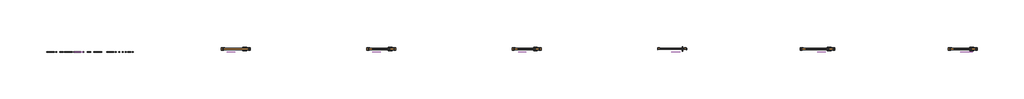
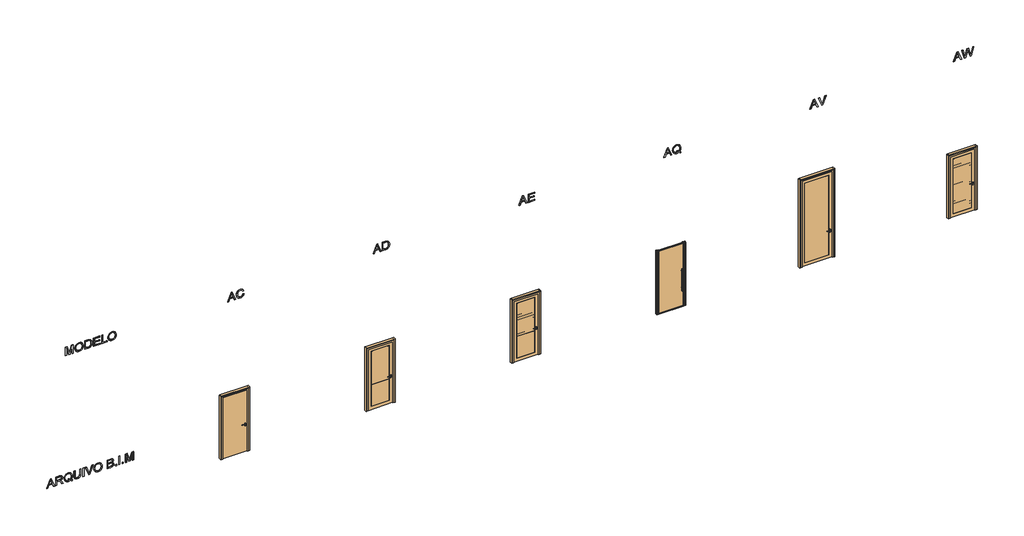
# One storey: 8 proxies, 6 doors.
"""IFC4 building model written with IfcOpenShell, lengths in millimetres."""

from ifc_helpers import new_model, si_unit, frame, origin, place, context, project, spatial, polyline, outline, extrude, transform, mapped, element, save
from components import ac_db78cb7f, ad_85d287fc, ae_54fc4071, aq_f80e5219, av_c553ab14, aw_c943b0d2

model = new_model("IFC4")

# Units and contexts
model_context = context("Model", 3, world=origin())
ifc_project = project(units=[si_unit("LENGTHUNIT", "METRE", prefix="MILLI")], contexts=[model_context])

# Site, building, storey
site = spatial("IfcSite", under=ifc_project)
building = spatial("IfcBuilding", under=site)
storey = spatial("IfcBuildingStorey", under=building, Name="05 - Marelli - Planta Baixa - Porta de Giro (01 Folha)", Elevation=48000.0)

# Proxies
placement = place(None, origin())
element("IfcBuildingElementProxy", 1, Name="300mm Arial", ObjectType="300mm Arial", at=placement, inside=storey, context=model_context, shape_type="SweptSolid", body=[
    extrude(outline(polyline([(49100.0, -7636.3146377), (49100.0, -7596.5098058), (49194.1777908, -7562.076051), (49194.1777908, -7437.9526659), (49100.0, -7403.4453347), (49100.0, -7363.6405028), (49401.3689304, -7483.9379153), (49401.3689304, -7516.0172252), (49100.0, -7636.3146377)]), holes=[polyline([(49231.8489071, -7548.243688), (49312.415064, -7518.739552), (49363.6978141, -7499.9775703), (49305.9403409, -7478.8611437), (49231.8489071, -7451.7114525), (49231.8489071, -7548.243688)])]), frame((0.0, 8778.3159498, 0.0), z_axis=(0.0, 1.0, 0.0), x_axis=(0.0, 0.0, 1.0)), (0.0, 0.0, 1.0), 10.0),
    extrude(outline(polyline([(49100.0, -7323.3942126), (49100.0, -7285.7230963), (49231.8489071, -7285.7230963), (49231.8489071, -7240.2528817), (49230.5245319, -7218.4006911), (49223.350833, -7200.484838), (49203.816299, -7180.582422), (49162.4663628, -7152.2555084), (49100.0, -7113.0392877), (49100.0, -7069.2613303), (49181.6698029, -7119.5140108), (49220.4445652, -7150.0482164), (49236.5577966, -7171.4589486), (49246.5457928, -7134.3488523), (49254.5610217, -7119.9669655), (49264.5904046, -7108.3671864), (49289.2017101, -7093.0540983), (49318.8897871, -7087.9497357), (49342.7561316, -7091.0307474), (49364.4703663, -7100.2737825), (49381.9815493, -7114.6763626), (49393.2387384, -7133.2360093), (49399.3363824, -7158.629064), (49401.3689304, -7193.5318683), (49401.3689304, -7323.3942126), (49100.0, -7323.3942126)]), holes=[polyline([(49269.5200234, -7285.7230963), (49363.6978141, -7285.7230963), (49363.6978141, -7191.9131875), (49360.4420585, -7162.1055488), (49350.6747915, -7141.5501423), (49335.8675412, -7129.6031746), (49317.4918355, -7125.620852), (49304.1837044, -7127.7085823), (49291.9240369, -7133.9717732), (49281.7888879, -7144.254075), (49274.8543123, -7158.3991377), (49270.8535956, -7177.1887106), (49269.5200234, -7201.404543), (49269.5200234, -7285.7230963)])]), frame((0.0, 8778.3159498, 0.0), z_axis=(0.0, 1.0, 0.0), x_axis=(0.0, 0.0, 1.0)), (0.0, 0.0, 1.0), 10.0),
    extrude(outline(polyline([(49136.1260119, -6795.6307023), (49159.6520655, -6777.1814202), (49186.9673037, -6764.0664271), (49218.0349382, -6756.2305406), (49252.8181808, -6753.6185784), (49294.6463636, -6757.9227978), (49331.9863862, -6770.8354558), (49363.1827793, -6791.9610794), (49386.5800742, -6820.9041954), (49401.2033836, -6855.7702114), (49406.07782, -6894.6645354), (49401.3137481, -6933.2553567), (49387.0215326, -6967.9466288), (49363.6150407, -6996.93573), (49331.5081396, -7018.4200386), (49293.055274, -7031.7189727), (49250.6108888, -7036.1519507), (49208.2032918, -7031.7097756), (49170.3022493, -7018.3832504), (49138.6460036, -6996.8161684), (49114.9727972, -6967.6523232), (49100.2115321, -6932.8322924), (49095.2911105, -6894.2966534), (49099.5585416, -6855.9449554), (49112.360835, -6821.0881364), (49091.52032, -6790.1308665), (49077.1177399, -6759.063232), (49104.7088895, -6748.9096889), (49117.5295771, -6771.2953083), (49136.1260119, -6795.6307023)]), holes=[polyline([(49186.2315397, -6883.9223811), (49157.3895912, -6893.6344658), (49150.712533, -6873.2721974), (49140.6877487, -6853.9767867), (49134.8936072, -6873.6032912), (49132.9622268, -6894.5173826), (49134.8637168, -6916.2385151), (49140.568187, -6935.9316982), (49150.0756373, -6953.5969318), (49163.3860678, -6969.2342158), (49180.251158, -6982.0296115), (49200.4225876, -6991.1691798), (49223.9003567, -6996.6529208), (49250.6844652, -6998.4808344), (49278.1859436, -6996.6322274), (49302.0499888, -6991.0864063), (49322.2766007, -6981.8433712), (49338.8657795, -6968.903122), (49351.7899338, -6953.1577726), (49361.0214726, -6935.4994369), (49366.5603959, -6915.9281147), (49368.4067037, -6894.4438062), (49364.7554749, -6865.9605427), (49353.8017885, -6840.4019411), (49336.2354232, -6819.2027411), (49312.7461578, -6803.7976826), (49284.0605592, -6794.4166917), (49250.9051944, -6791.2896947), (49221.7321522, -6793.5015852), (49196.4586591, -6800.1372567), (49175.0847152, -6811.1967092), (49157.6103204, -6826.6799427), (49174.2569807, -6852.2477413), (49186.2315397, -6883.9223811)])]), frame((0.0, 8778.3159498, 0.0), z_axis=(0.0, 1.0, 0.0), x_axis=(0.0, 0.0, 1.0)), (0.0, 0.0, 1.0), 10.0),
    extrude(outline(polyline([(49401.3689304, -6499.3385434), (49228.8322747, -6499.3385434), (49181.6698029, -6504.1026152), (49164.9311721, -6510.057705), (49152.7542781, -6518.3948307), (49144.0952556, -6529.5278596), (49137.9102396, -6543.8706589), (49132.9622268, -6582.1855687), (49135.4638243, -6606.3554158), (49142.968617, -6626.4785609), (49155.0811317, -6641.9112106), (49171.4058953, -6652.0095714), (49194.9779341, -6657.5829836), (49228.8322747, -6659.4407877), (49401.3689304, -6659.4407877), (49401.3689304, -6697.111904), (49227.5078995, -6697.111904), (49184.7324205, -6694.2516215), (49152.0553023, -6685.6707739), (49127.6923172, -6670.4036711), (49109.8592375, -6647.4846228), (49098.9331422, -6616.904432), (49095.2911105, -6578.6539015), (49099.4757682, -6539.5480454), (49112.0297412, -6508.7563224), (49131.2515755, -6486.2235502), (49155.4398167, -6471.8945465), (49186.7925597, -6464.2242069), (49227.5078995, -6461.6674271), (49401.3689304, -6461.6674271), (49401.3689304, -6499.3385434)])), frame((0.0, 8778.3159498, 0.0), z_axis=(0.0, 1.0, 0.0), x_axis=(0.0, 0.0, 1.0)), (0.0, 0.0, 1.0), 10.0),
    extrude(outline(polyline([(-6353.3629677, 8778.3159498), (-6391.034084, 8778.3159498), (-6391.034084, 8788.3159498), (-6353.3629677, 8788.3159498), (-6353.3629677, 8778.3159498)])), frame((0.0, 0.0, 49100.0), z_axis=(0.0, 0.0, 1.0), x_axis=(1.0, 0.0, 0.0)), (0.0, 0.0, 1.0), 301.3689304),
    extrude(outline(polyline([(49100.0, -6188.9932922), (49100.0, -6150.0713771), (49401.3689304, -6035.2186183), (49401.3689304, -6075.5384849), (49184.2449769, -6156.0310655), (49135.3166715, -6172.0707205), (49184.2449769, -6188.3311046), (49401.3689304, -6268.602956), (49401.3689304, -6308.9228227), (49100.0, -6188.9932922)])), frame((0.0, 8778.3159498, 0.0), z_axis=(0.0, 1.0, 0.0), x_axis=(0.0, 0.0, 1.0)), (0.0, 0.0, 1.0), 10.0),
    extrude(outline(polyline([(49246.7113397, -6014.3229209), (49208.1665036, -6010.0187016), (49171.7002009, -5997.1060436), (49140.007167, -5975.8424642), (49115.7821376, -5946.485481), (49100.4138672, -5910.8377157), (49095.2911105, -5870.70179), (49099.9264236, -5832.892718), (49113.832363, -5797.7507904), (49136.7514113, -5767.7868019), (49168.4260511, -5745.5115471), (49206.8881137, -5731.6883811), (49250.1694304, -5727.0806591), (49292.8805301, -5731.4584548), (49330.8091638, -5744.5918421), (49362.4286213, -5766.0761506), (49386.2121922, -5795.5067102), (49401.1114131, -5830.9521404), (49406.07782, -5870.4810608), (49403.4336681, -5900.7715446), (49395.5012126, -5928.1465636), (49382.2804534, -5952.6061177), (49363.7713905, -5974.1502071), (49340.5902263, -5991.7257694), (49313.3531631, -6004.2797425), (49282.0602009, -6011.8121263), (49246.7113397, -6014.3229209)]), holes=[polyline([(49246.3434577, -5976.6518046), (49276.8799625, -5974.6882345), (49302.7121764, -5968.797524), (49323.8400992, -5958.9796733), (49340.263731, -5945.2346822), (49352.5762816, -5928.7673644), (49361.3709605, -5910.7825334), (49366.6477679, -5891.2801891), (49368.4067037, -5870.2603316), (49364.7554749, -5841.0964864), (49353.8017885, -5814.9676677), (49336.2078321, -5793.3086153), (49312.6357932, -5777.5540688), (49283.8122389, -5767.9523488), (49250.463736, -5764.7517754), (49223.9256486, -5766.6210758), (49200.5973316, -5772.228977), (49180.478785, -5781.5754789), (49163.5700088, -5794.6605816), (49150.1791041, -5810.642755), (49140.6141723, -5828.6804691), (49134.8752131, -5848.7737238), (49132.9622268, -5870.9225192), (49134.856819, -5892.6988341), (49140.5405959, -5912.557564), (49150.0135572, -5930.4987091), (49163.2757032, -5946.5222692), (49179.8349915, -5959.703941), (49199.19938, -5969.1194208), (49221.3688687, -5974.7687087), (49246.3434577, -5976.6518046)])]), frame((0.0, 8778.3159498, 0.0), z_axis=(0.0, 1.0, 0.0), x_axis=(0.0, 0.0, 1.0)), (0.0, 0.0, 1.0), 10.0),
    extrude(outline(polyline([(49100.0, -5557.5606357), (49100.0, -5443.4436408), (49105.1871361, -5395.1407348), (49111.6066769, -5377.10532), (49120.4910271, -5362.3624491), (49132.7598917, -5350.3235108), (49149.3329756, -5340.399894), (49168.8215242, -5333.7504269), (49189.8367832, -5331.5339379), (49215.055094, -5334.7804965), (49236.7049494, -5344.5201723), (49253.6643094, -5360.2931129), (49264.8111338, -5381.6394656), (49276.5557665, -5363.7695977), (49291.4825785, -5351.0684718), (49308.543106, -5343.4809057), (49326.6888854, -5340.951717), (49346.4073604, -5343.9591523), (49365.2429185, -5352.9814582), (49381.2549824, -5367.3104619), (49392.5029744, -5386.2379906), (49399.1524414, -5410.9320695), (49401.3689304, -5442.560724), (49401.3689304, -5557.5606357), (49100.0, -5557.5606357)]), holes=[polyline([(49278.9378025, -5519.8895194), (49363.6978141, -5519.8895194), (49363.6978141, -5456.3195106), (49359.7614768, -5407.9062401), (49354.1604734, -5395.4166463), (49345.230138, -5386.2012024), (49333.7890079, -5380.5174255), (49320.6556207, -5378.6228333), (49307.1267603, -5380.6553813), (49296.1178916, -5386.7530254), (49287.7577733, -5396.8605832), (49282.175164, -5410.9228724), (49278.9378025, -5451.0955863), (49278.9378025, -5519.8895194)]), polyline([(49137.6711163, -5519.8895194), (49241.2666861, -5519.8895194), (49241.2666861, -5446.3131204), (49240.0066903, -5419.4853259), (49236.2267028, -5399.776048), (49229.3381125, -5385.8609115), (49218.752308, -5376.4155413), (49205.2142506, -5371.007676), (49189.4689012, -5369.2050542), (49175.9124497, -5370.7409615), (49164.0850436, -5375.3486835), (49147.3464128, -5391.0204565), (49139.1426443, -5414.6752688), (49137.6711163, -5442.6343004), (49137.6711163, -5519.8895194)])]), frame((0.0, 8778.3159498, 0.0), z_axis=(0.0, 1.0, 0.0), x_axis=(0.0, 0.0, 1.0)), (0.0, 0.0, 1.0), 10.0),
    extrude(outline(polyline([(-5237.3561471, 8778.3159498), (-5275.0272634, 8778.3159498), (-5275.0272634, 8788.3159498), (-5237.3561471, 8788.3159498), (-5237.3561471, 8778.3159498)])), frame((0.0, 0.0, 49100.0), z_axis=(0.0, 0.0, 1.0), x_axis=(1.0, 0.0, 0.0)), (0.0, 0.0, 1.0), 37.6711163),
    extrude(outline(polyline([(-5119.6339087, 8778.3159498), (-5157.305025, 8778.3159498), (-5157.305025, 8788.3159498), (-5119.6339087, 8788.3159498), (-5119.6339087, 8778.3159498)])), frame((0.0, 0.0, 49100.0), z_axis=(0.0, 0.0, 1.0), x_axis=(1.0, 0.0, 0.0)), (0.0, 0.0, 1.0), 301.3689304),
    extrude(outline(polyline([(-5001.9116702, 8778.3159498), (-5039.5827865, 8778.3159498), (-5039.5827865, 8788.3159498), (-5001.9116702, 8788.3159498), (-5001.9116702, 8778.3159498)])), frame((0.0, 0.0, 49100.0), z_axis=(0.0, 0.0, 1.0), x_axis=(1.0, 0.0, 0.0)), (0.0, 0.0, 1.0), 37.6711163),
    extrude(outline(polyline([(49100.0, -4926.5694376), (49100.0, -4888.8983213), (49363.6978141, -4888.8983213), (49100.0, -4813.1882067), (49100.0, -4762.1261857), (49363.6978141, -4686.4160711), (49100.0, -4686.4160711), (49100.0, -4648.7449548), (49401.3689304, -4648.7449548), (49401.3689304, -4713.5657624), (49192.6326864, -4774.1927152), (49144.5872978, -4787.6571962), (49188.9538664, -4800.0916076), (49401.3689304, -4861.74863), (49401.3689304, -4926.5694376), (49100.0, -4926.5694376)])), frame((0.0, 8778.3159498, 0.0), z_axis=(0.0, 1.0, 0.0), x_axis=(0.0, 0.0, 1.0)), (0.0, 0.0, 1.0), 10.0),
])
element("IfcBuildingElementProxy", 2, Name="300mm Arial", ObjectType="300mm Arial", at=placement, inside=storey, context=model_context, shape_type="SweptSolid", body=[
    extrude(outline(polyline([(53700.0, -6993.7719449), (53700.0, -6956.1008286), (53963.6978141, -6956.1008286), (53700.0, -6880.390714), (53700.0, -6829.328693), (53963.6978141, -6753.6185784), (53700.0, -6753.6185784), (53700.0, -6715.9474621), (54001.3689304, -6715.9474621), (54001.3689304, -6780.7682697), (53792.6326864, -6841.3952225), (53744.5872978, -6854.8597035), (53788.9538664, -6867.2941149), (54001.3689304, -6928.9511373), (54001.3689304, -6993.7719449), (53700.0, -6993.7719449)])), frame((0.0, 8778.3159498, 0.0), z_axis=(0.0, 1.0, 0.0), x_axis=(0.0, 0.0, 1.0)), (0.0, 0.0, 1.0), 10.0),
    extrude(outline(polyline([(53846.7113397, -6664.1496772), (53808.1665036, -6659.8454579), (53771.7002009, -6646.9327998), (53740.007167, -6625.6692205), (53715.7821376, -6596.3122373), (53700.4138672, -6560.664472), (53695.2911105, -6520.5285463), (53699.9264236, -6482.7194742), (53713.832363, -6447.5775466), (53736.7514113, -6417.6135581), (53768.4260511, -6395.3383033), (53806.8881137, -6381.5151374), (53850.1694304, -6376.9074154), (53892.8805301, -6381.2852111), (53930.8091638, -6394.4185983), (53962.4286213, -6415.9029069), (53986.2121922, -6445.3334665), (54001.1114131, -6480.7788967), (54006.07782, -6520.3078171), (54003.4336681, -6550.5983009), (53995.5012126, -6577.9733198), (53982.2804534, -6602.432874), (53963.7713905, -6623.9769633), (53940.5902263, -6641.5525257), (53913.3531631, -6654.1064987), (53882.0602009, -6661.6388826), (53846.7113397, -6664.1496772)]), holes=[polyline([(53846.3434577, -6626.4785609), (53876.8799625, -6624.5149908), (53902.7121764, -6618.6242803), (53923.8400992, -6608.8064296), (53940.263731, -6595.0614385), (53952.5762816, -6578.5941207), (53961.3709605, -6560.6092897), (53966.6477679, -6541.1069454), (53968.4067037, -6520.0870879), (53964.7554749, -6490.9232427), (53953.8017885, -6464.794424), (53936.2078321, -6443.1353716), (53912.6357932, -6427.3808251), (53883.8122389, -6417.779105), (53850.463736, -6414.5785317), (53823.9256486, -6416.4478321), (53800.5973316, -6422.0557332), (53780.478785, -6431.4022352), (53763.5700088, -6444.4873379), (53750.1791041, -6460.4695113), (53740.6141723, -6478.5072254), (53734.8752131, -6498.6004801), (53732.9622268, -6520.7492755), (53734.856819, -6542.5255903), (53740.5405959, -6562.3843203), (53750.0135572, -6580.3254653), (53763.2757032, -6596.3490255), (53779.8349915, -6609.5306972), (53799.19938, -6618.9461771), (53821.3688687, -6624.5954649), (53846.3434577, -6626.4785609)])]), frame((0.0, 8778.3159498, 0.0), z_axis=(0.0, 1.0, 0.0), x_axis=(0.0, 0.0, 1.0)), (0.0, 0.0, 1.0), 10.0),
    extrude(outline(polyline([(53700.0, -6325.1096305), (53700.0, -6216.1429835), (53705.1503479, -6167.6929247), (53711.5055094, -6148.1491937), (53720.2702979, -6131.6772774), (53732.088507, -6117.3298796), (53747.6039302, -6104.1597042), (53767.2580258, -6092.7185741), (53791.4922522, -6083.5583124), (53819.9571216, -6077.5434418), (53852.303146, -6075.5384849), (53890.3789325, -6078.499935), (53923.9665587, -6087.3842852), (53952.5142015, -6102.2283237), (53975.470038, -6123.0688387), (53988.6586075, -6143.3391366), (53997.0279229, -6167.3618309), (54001.3689304, -6221.1461786), (54001.3689304, -6325.1096305), (53700.0, -6325.1096305)]), holes=[polyline([(53737.6711163, -6287.4385141), (53963.6978141, -6287.4385141), (53963.6978141, -6221.8083662), (53962.189498, -6190.06015), (53957.6645494, -6168.3919005), (53945.0829852, -6147.10073), (53924.2608643, -6129.2860444), (53893.9473879, -6117.228712), (53852.8917572, -6113.2096012), (53821.9068962, -6115.2605434), (53795.9068361, -6121.4133697), (53774.7996067, -6131.245016), (53758.4932372, -6144.332418), (53749.6824634, -6156.5093121), (53743.1157698, -6172.2914497), (53739.0322797, -6193.2055411), (53737.6711163, -6220.7782966), (53737.6711163, -6287.4385141)])]), frame((0.0, 8778.3159498, 0.0), z_axis=(0.0, 1.0, 0.0), x_axis=(0.0, 0.0, 1.0)), (0.0, 0.0, 1.0), 10.0),
    extrude(outline(polyline([(53700.0, -6023.7407), (53700.0, -5802.4228917), (53737.6711163, -5802.4228917), (53737.6711163, -5986.0695837), (53836.5577966, -5986.0695837), (53836.5577966, -5816.5495603), (53874.2289129, -5816.5495603), (53874.2289129, -5986.0695837), (53963.6978141, -5986.0695837), (53963.6978141, -5807.1317812), (54001.3689304, -5807.1317812), (54001.3689304, -6023.7407), (53700.0, -6023.7407)])), frame((0.0, 8778.3159498, 0.0), z_axis=(0.0, 1.0, 0.0), x_axis=(0.0, 0.0, 1.0)), (0.0, 0.0, 1.0), 10.0),
    extrude(outline(polyline([(53700.0, -5745.9162172), (53700.0, -5557.5606357), (53737.6711163, -5557.5606357), (53737.6711163, -5708.2451009), (54001.3689304, -5708.2451009), (54001.3689304, -5745.9162172), (53700.0, -5745.9162172)])), frame((0.0, 8778.3159498, 0.0), z_axis=(0.0, 1.0, 0.0), x_axis=(0.0, 0.0, 1.0)), (0.0, 0.0, 1.0), 10.0),
    extrude(outline(polyline([(53846.7113397, -5529.3072985), (53808.1665036, -5525.0030791), (53771.7002009, -5512.0904211), (53740.007167, -5490.8268418), (53715.7821376, -5461.4698586), (53700.4138672, -5425.8220932), (53695.2911105, -5385.6861676), (53699.9264236, -5347.8770955), (53713.832363, -5312.7351679), (53736.7514113, -5282.7711794), (53768.4260511, -5260.4959246), (53806.8881137, -5246.6727586), (53850.1694304, -5242.0650367), (53892.8805301, -5246.4428324), (53930.8091638, -5259.5762196), (53962.4286213, -5281.0605281), (53986.2121922, -5310.4910878), (54001.1114131, -5345.936518), (54006.07782, -5385.4654384), (54003.4336681, -5415.7559222), (53995.5012126, -5443.1309411), (53982.2804534, -5467.5904953), (53963.7713905, -5489.1345846), (53940.5902263, -5506.7101469), (53913.3531631, -5519.26412), (53882.0602009, -5526.7965039), (53846.7113397, -5529.3072985)]), holes=[polyline([(53846.3434577, -5491.6361822), (53876.8799625, -5489.672612), (53902.7121764, -5483.7819016), (53923.8400992, -5473.9640508), (53940.263731, -5460.2190598), (53952.5762816, -5443.751742), (53961.3709605, -5425.7669109), (53966.6477679, -5406.2645667), (53968.4067037, -5385.2447092), (53964.7554749, -5356.080864), (53953.8017885, -5329.9520453), (53936.2078321, -5308.2929928), (53912.6357932, -5292.5384464), (53883.8122389, -5282.9367263), (53850.463736, -5279.736153), (53823.9256486, -5281.6054533), (53800.5973316, -5287.2133545), (53780.478785, -5296.5598565), (53763.5700088, -5309.6449592), (53750.1791041, -5325.6271326), (53740.6141723, -5343.6648467), (53734.8752131, -5363.7581014), (53732.9622268, -5385.9068968), (53734.856819, -5407.6832116), (53740.5405959, -5427.5419416), (53750.0135572, -5445.4830866), (53763.2757032, -5461.5066468), (53779.8349915, -5474.6883185), (53799.19938, -5484.1037983), (53821.3688687, -5489.7530862), (53846.3434577, -5491.6361822)])]), frame((0.0, 8778.3159498, 0.0), z_axis=(0.0, 1.0, 0.0), x_axis=(0.0, 0.0, 1.0)), (0.0, 0.0, 1.0), 10.0),
])
element("IfcBuildingElementProxy", 3, Name="300mm Arial", ObjectType="300mm Arial", at=placement, inside=storey, context=model_context, shape_type="SweptSolid", body=[
    extrude(outline(polyline([(53700.0, -1416.7122473), (53700.0, -1376.9074154), (53794.1777908, -1342.4736606), (53794.1777908, -1218.3502755), (53700.0, -1183.8429443), (53700.0, -1144.0381124), (54001.3689304, -1264.3355249), (54001.3689304, -1296.4148348), (53700.0, -1416.7122473)]), holes=[polyline([(53831.8489071, -1328.6412976), (53912.415064, -1299.1371616), (53963.6978141, -1280.3751798), (53905.9403409, -1259.2587533), (53831.8489071, -1232.1090621), (53831.8489071, -1328.6412976)])]), frame((0.0, 8778.3159498, 0.0), z_axis=(0.0, 1.0, 0.0), x_axis=(0.0, 0.0, 1.0)), (0.0, 0.0, 1.0), 10.0),
    extrude(outline(polyline([(53807.127237, -891.8917929), (53774.863986, -904.077884), (53751.6506321, -923.8607383), (53737.6343281, -950.0631334), (53732.9622268, -981.507847), (53736.3927264, -1008.4827943), (53746.6842252, -1033.4895729), (53763.9102996, -1054.348482), (53788.144526, -1068.8798208), (53818.2372732, -1077.4054861), (53853.03891, -1080.2473745), (53881.4577941, -1077.8469444), (53909.0305497, -1070.6456544), (53933.4211259, -1057.5214642), (53952.2934723, -1037.3523338), (53964.3783958, -1010.7728597), (53968.4067037, -978.4176382), (53964.773869, -950.348242), (53953.8753649, -927.5027701), (53935.0306097, -909.6604933), (53907.5590217, -896.6006825), (53916.5353424, -858.9295662), (53954.3536115, -875.5670294), (53969.6758966, -887.3691437), (53982.6069487, -901.493513), (53992.8754549, -917.673423), (54000.2101022, -935.6421592), (54006.07782, -976.9461102), (54001.5436744, -1014.8011675), (53987.9412376, -1049.3452869), (53965.6016035, -1078.4723438), (53934.8558657, -1100.076214), (53896.9088379, -1113.4579216), (53852.9653336, -1117.9184908), (53811.3026976, -1113.9729564), (53772.3991767, -1102.1363532), (53739.3081912, -1082.748972), (53715.0831618, -1056.1511038), (53700.2391233, -1021.4506346), (53695.2911105, -977.7554506), (53696.9258861, -955.333043), (53701.8302129, -934.7132572), (53710.004091, -915.8960931), (53721.4475203, -898.8815508), (53736.004151, -884.0053227), (53753.5176332, -871.6031009), (53773.987967, -861.6748856), (53797.4151523, -854.2206766), (53807.127237, -891.8917929)])), frame((0.0, 8778.3159498, 0.0), z_axis=(0.0, 1.0, 0.0), x_axis=(0.0, 0.0, 1.0)), (0.0, 0.0, 1.0), 10.0),
])
element("IfcBuildingElementProxy", 4, Name="300mm Arial", ObjectType="300mm Arial", at=placement, inside=storey, context=model_context, shape_type="SweptSolid", body=[
    extrude(outline(polyline([(53700.0, 3583.2877527), (53700.0, 3623.0925846), (53794.1777908, 3657.5263394), (53794.1777908, 3781.6497245), (53700.0, 3816.1570557), (53700.0, 3855.9618876), (54001.3689304, 3735.6644751), (54001.3689304, 3703.5851652), (53700.0, 3583.2877527)]), holes=[polyline([(53831.8489071, 3671.3587024), (53912.415064, 3700.8628384), (53963.6978141, 3719.6248202), (53905.9403409, 3740.7412467), (53831.8489071, 3767.8909379), (53831.8489071, 3671.3587024)])]), frame((0.0, 8778.3159498, 0.0), z_axis=(0.0, 1.0, 0.0), x_axis=(0.0, 0.0, 1.0)), (0.0, 0.0, 1.0), 10.0),
    extrude(outline(polyline([(53700.0, 3896.2081778), (53700.0, 4005.1748248), (53705.1503479, 4053.6248836), (53711.5055094, 4073.1686146), (53720.2702979, 4089.6405309), (53732.088507, 4103.9879287), (53747.6039302, 4117.1581041), (53767.2580258, 4128.5992342), (53791.4922522, 4137.7594959), (53819.9571216, 4143.7743665), (53852.303146, 4145.7793234), (53890.3789325, 4142.8178733), (53923.9665587, 4133.9335231), (53952.5142015, 4119.0894846), (53975.470038, 4098.2489696), (53988.6586075, 4077.9786717), (53997.0279229, 4053.9559774), (54001.3689304, 4000.1716297), (54001.3689304, 3896.2081778), (53700.0, 3896.2081778)]), holes=[polyline([(53737.6711163, 3933.8792942), (53963.6978141, 3933.8792942), (53963.6978141, 3999.5094421), (53962.189498, 4031.2576583), (53957.6645494, 4052.9259078), (53945.0829852, 4074.2170783), (53924.2608643, 4092.0317639), (53893.9473879, 4104.0890963), (53852.8917572, 4108.1082071), (53821.9068962, 4106.0572649), (53795.9068361, 4099.9044386), (53774.7996067, 4090.0727923), (53758.4932372, 4076.9853903), (53749.6824634, 4064.8084962), (53743.1157698, 4049.0263586), (53739.0322797, 4028.1122672), (53737.6711163, 4000.5395117), (53737.6711163, 3933.8792942)])]), frame((0.0, 8778.3159498, 0.0), z_axis=(0.0, 1.0, 0.0), x_axis=(0.0, 0.0, 1.0)), (0.0, 0.0, 1.0), 10.0),
])
element("IfcBuildingElementProxy", 5, Name="300mm Arial", ObjectType="300mm Arial", at=placement, inside=storey, context=model_context, shape_type="SweptSolid", body=[
    extrude(outline(polyline([(53700.0, 8595.0599766), (53700.0, 8634.8648085), (53794.1777908, 8669.2985632), (53794.1777908, 8793.4219484), (53700.0, 8827.9292795), (53700.0, 8867.7341114), (54001.3689304, 8747.436699), (54001.3689304, 8715.357389), (53700.0, 8595.0599766)]), holes=[polyline([(53831.8489071, 8683.1309262), (53912.415064, 8712.6350623), (53963.6978141, 8731.397044), (53905.9403409, 8752.5134705), (53831.8489071, 8779.6631618), (53831.8489071, 8683.1309262)])]), frame((0.0, 8778.3159498, 0.0), z_axis=(0.0, 1.0, 0.0), x_axis=(0.0, 0.0, 1.0)), (0.0, 0.0, 1.0), 10.0),
    extrude(outline(polyline([(53700.0, 8907.9804017), (53700.0, 9129.29821), (53737.6711163, 9129.29821), (53737.6711163, 8945.651518), (53836.5577966, 8945.651518), (53836.5577966, 9115.1715414), (53874.2289129, 9115.1715414), (53874.2289129, 8945.651518), (53963.6978141, 8945.651518), (53963.6978141, 9124.5893205), (54001.3689304, 9124.5893205), (54001.3689304, 8907.9804017), (53700.0, 8907.9804017)])), frame((0.0, 8778.3159498, 0.0), z_axis=(0.0, 1.0, 0.0), x_axis=(0.0, 0.0, 1.0)), (0.0, 0.0, 1.0), 10.0),
])
element("IfcBuildingElementProxy", 6, Name="300mm Arial", ObjectType="300mm Arial", at=placement, inside=storey, context=model_context, shape_type="SweptSolid", body=[
    extrude(outline(polyline([(53700.0, 13571.5155289), (53700.0, 13611.3203608), (53794.1777908, 13645.7541155), (53794.1777908, 13769.8775007), (53700.0, 13804.3848318), (53700.0, 13844.1896637), (54001.3689304, 13723.8922513), (54001.3689304, 13691.8129413), (53700.0, 13571.5155289)]), holes=[polyline([(53831.8489071, 13659.5864785), (53912.415064, 13689.0906146), (53963.6978141, 13707.8525963), (53905.9403409, 13728.9690228), (53831.8489071, 13756.1187141), (53831.8489071, 13659.5864785)])]), frame((0.0, 8778.3159498, 0.0), z_axis=(0.0, 1.0, 0.0), x_axis=(0.0, 0.0, 1.0)), (0.0, 0.0, 1.0), 10.0),
    extrude(outline(polyline([(53736.1260119, 14110.8305338), (53759.6520655, 14129.2798159), (53786.9673037, 14142.394809), (53818.0349382, 14150.2306955), (53852.8181808, 14152.8426577), (53894.6463636, 14148.5384383), (53931.9863862, 14135.6257803), (53963.1827793, 14114.5001567), (53986.5800742, 14085.5570408), (54001.2033836, 14050.6910247), (54006.07782, 14011.7967007), (54001.3137481, 13973.2058794), (53987.0215326, 13938.5146073), (53963.6150407, 13909.5255061), (53931.5081396, 13888.0411976), (53893.055274, 13874.7422634), (53850.6108888, 13870.3092854), (53808.2032918, 13874.7514605), (53770.3022493, 13888.0779858), (53738.6460036, 13909.6450677), (53714.9727972, 13938.8089129), (53700.2115321, 13973.6289437), (53695.2911105, 14012.1645827), (53699.5585416, 14050.5162807), (53712.360835, 14085.3730998), (53691.52032, 14116.3303697), (53677.1177399, 14147.3980042), (53704.7088895, 14157.5515472), (53717.5295771, 14135.1659278), (53736.1260119, 14110.8305338)]), holes=[polyline([(53786.2315397, 14022.538855), (53757.3895912, 14012.8267703), (53750.712533, 14033.1890387), (53740.6877487, 14052.4844494), (53734.8936072, 14032.857945), (53732.9622268, 14011.9438535), (53734.8637168, 13990.222721), (53740.568187, 13970.5295379), (53750.0756373, 13952.8643044), (53763.3860678, 13937.2270203), (53780.251158, 13924.4316247), (53800.4225876, 13915.2920563), (53823.9003567, 13909.8083154), (53850.6844652, 13907.9804017), (53878.1859436, 13909.8290087), (53902.0499888, 13915.3748298), (53922.2766007, 13924.6178649), (53938.8657795, 13937.5581141), (53951.7899338, 13953.3034635), (53961.0214726, 13970.9617993), (53966.5603959, 13990.5331214), (53968.4067037, 14012.0174299), (53964.7554749, 14040.5006934), (53953.8017885, 14066.059295), (53936.2354232, 14087.258495), (53912.7461578, 14102.6635535), (53884.0605592, 14112.0445444), (53850.9051944, 14115.1715414), (53821.7321522, 14112.9596509), (53796.4586591, 14106.3239794), (53775.0847152, 14095.2645269), (53757.6103204, 14079.7812934), (53774.2569807, 14054.2134948), (53786.2315397, 14022.538855)])]), frame((0.0, 8778.3159498, 0.0), z_axis=(0.0, 1.0, 0.0), x_axis=(0.0, 0.0, 1.0)), (0.0, 0.0, 1.0), 10.0),
])
element("IfcBuildingElementProxy", 7, Name="300mm Arial", ObjectType="300mm Arial", at=placement, inside=storey, context=model_context, shape_type="SweptSolid", body=[
    extrude(outline(polyline([(53700.0, 18595.0599766), (53700.0, 18634.8648085), (53794.1777908, 18669.2985632), (53794.1777908, 18793.4219484), (53700.0, 18827.9292795), (53700.0, 18867.7341114), (54001.3689304, 18747.436699), (54001.3689304, 18715.357389), (53700.0, 18595.0599766)]), holes=[polyline([(53831.8489071, 18683.1309262), (53912.415064, 18712.6350623), (53963.6978141, 18731.397044), (53905.9403409, 18752.5134705), (53831.8489071, 18779.6631618), (53831.8489071, 18683.1309262)])]), frame((0.0, 8778.3159498, 0.0), z_axis=(0.0, 1.0, 0.0), x_axis=(0.0, 0.0, 1.0)), (0.0, 0.0, 1.0), 10.0),
    extrude(outline(polyline([(53700.0, 18997.0078445), (53700.0, 19035.9297596), (54001.3689304, 19150.7825185), (54001.3689304, 19110.4626518), (53784.2449769, 19029.9700713), (53735.3166715, 19013.9304163), (53784.2449769, 18997.6700321), (54001.3689304, 18917.3981808), (54001.3689304, 18877.0783141), (53700.0, 18997.0078445)])), frame((0.0, 8778.3159498, 0.0), z_axis=(0.0, 1.0, 0.0), x_axis=(0.0, 0.0, 1.0)), (0.0, 0.0, 1.0), 10.0),
])
element("IfcBuildingElementProxy", 8, Name="300mm Arial", ObjectType="300mm Arial", at=placement, inside=storey, context=model_context, shape_type="SweptSolid", body=[
    extrude(outline(polyline([(53700.0, 23524.4266335), (53700.0, 23564.2314654), (53794.1777908, 23598.6652201), (53794.1777908, 23722.7886053), (53700.0, 23757.2959365), (53700.0, 23797.1007683), (54001.3689304, 23676.8033559), (54001.3689304, 23644.7240459), (53700.0, 23524.4266335)]), holes=[polyline([(53831.8489071, 23612.4975832), (53912.415064, 23642.0017192), (53963.6978141, 23660.7637009), (53905.9403409, 23681.8801275), (53831.8489071, 23709.0298187), (53831.8489071, 23612.4975832)])]), frame((0.0, 8778.3159498, 0.0), z_axis=(0.0, 1.0, 0.0), x_axis=(0.0, 0.0, 1.0)), (0.0, 0.0, 1.0), 10.0),
    extrude(outline(polyline([(53700.0, 23891.2785591), (53700.0, 23936.7487737), (53925.879545, 24002.5996508), (53964.9486129, 24013.9304163), (53932.501421, 24024.010383), (53700.0, 24096.2624068), (53700.0, 24136.5086971), (54001.3689304, 24218.7671112), (54001.3689304, 24179.9187725), (53801.5354307, 24131.7998076), (53742.1592766, 24117.5259861), (53797.4887287, 24103.8223818), (53852.671028, 24085.225947), (54001.3689304, 24041.8158715), (54001.3689304, 23985.8242319), (53796.2379299, 23926.0801959), (53742.1592766, 23910.3348465), (53803.3012642, 23895.6195667), (54001.3689304, 23847.9420601), (54001.3689304, 23809.0937214), (53700.0, 23891.2785591)])), frame((0.0, 8778.3159498, 0.0), z_axis=(0.0, 1.0, 0.0), x_axis=(0.0, 0.0, 1.0)), (0.0, 0.0, 1.0), 10.0),
])

# Doors
ac_shape = ac_db78cb7f(model_context)
element("IfcDoor", 9, ObjectType="Mobiliário_Mobiliário de Escritório_Porta de Giro Cega - AC_Marelli : AC", at=placement, inside=storey, context=model_context, shape_type="MappedRepresentation", body=[
    mapped(ac_shape, transform((-1124.9818251, 8888.3159498, 48000.0), x_axis=(1.0, 0.0, 0.0), y_axis=(0.0, 1.0, 0.0), z_axis=(0.0, 0.0, 1.0))),
])
ad_shape = ad_85d287fc(model_context)
element("IfcDoor", 10, ObjectType="Mobiliário_Mobiliário de Escritório_Porta de Giro Mista Vidro Duplo - AD_Marelli : AD", at=placement, inside=storey, context=model_context, shape_type="MappedRepresentation", body=[
    mapped(ad_shape, transform((3875.0181749, 8888.3159498, 48000.0), x_axis=(1.0, 0.0, 0.0), y_axis=(0.0, 1.0, 0.0), z_axis=(0.0, 0.0, 1.0))),
])
ae_shape = ae_54fc4071(model_context)
element("IfcDoor", 11, ObjectType="Mobiliário_Mobiliário de Escritório_Porta de Giro Mista Vidro Duplo com Persiana - AE_Marelli : AE", at=placement, inside=storey, context=model_context, shape_type="MappedRepresentation", body=[
    mapped(ae_shape, transform((8875.0181749, 8888.3159498, 48000.0), x_axis=(1.0, 0.0, 0.0), y_axis=(0.0, 1.0, 0.0), z_axis=(0.0, 0.0, 1.0))),
])
aq_shape = aq_f80e5219(model_context)
element("IfcDoor", 12, ObjectType="Mobiliário_Mobiliário de Escritório_Porta de Giro Emoldurada_Marelli : AQ", at=placement, inside=storey, context=model_context, shape_type="MappedRepresentation", body=[
    mapped(aq_shape, transform((13875.0181749, 8888.3159498, 48000.0), x_axis=(1.0, 0.0, 0.0), y_axis=(0.0, 1.0, 0.0), z_axis=(0.0, 0.0, 1.0))),
])
av_shape = av_c553ab14(model_context)
element("IfcDoor", 13, ObjectType="Mobiliário_Mobiliário de Escritório_Porta de Giro Vidro Duplo - AV_Marelli : AV", at=placement, inside=storey, context=model_context, shape_type="MappedRepresentation", body=[
    mapped(av_shape, transform((18875.0181749, 8888.3159498, 48000.0), x_axis=(1.0, 0.0, 0.0), y_axis=(0.0, 1.0, 0.0), z_axis=(0.0, 0.0, 1.0))),
])
aw_shape = aw_c943b0d2(model_context)
element("IfcDoor", 14, ObjectType="Mobiliário_Mobiliário de Escritório_Porta de Giro Vidro Duplo com Persiana - AW_Marelli : AW", at=placement, inside=storey, context=model_context, shape_type="MappedRepresentation", body=[
    mapped(aw_shape, transform((23875.0181749, 8888.3159498, 48000.0), x_axis=(1.0, 0.0, 0.0), y_axis=(0.0, 1.0, 0.0), z_axis=(0.0, 0.0, 1.0))),
])

save(model, "model.ifc")
